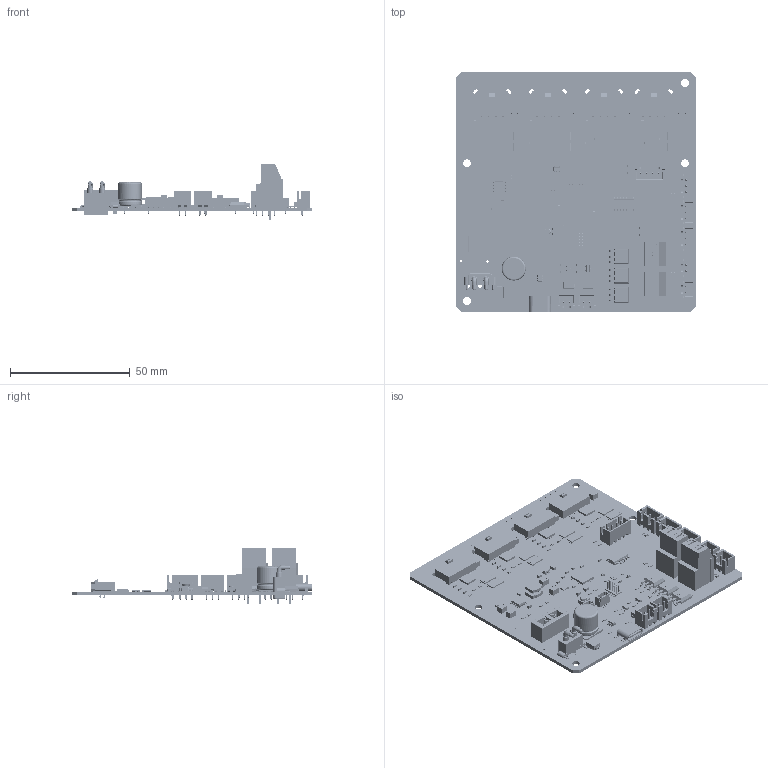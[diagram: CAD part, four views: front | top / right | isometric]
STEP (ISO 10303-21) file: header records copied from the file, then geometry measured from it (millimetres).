
FILE_DESCRIPTION(('KiCad electronic assembly'),'2;1');
FILE_NAME('a1-printcore-populated-pads.step','2026-11-21T11:14:58',( 'Pcbnew'),('Kicad'),'Open CASCADE STEP processor 7.6', 'KiCad to STEP converter','Unknown');
FILE_SCHEMA(('AUTOMOTIVE_DESIGN { 1 0 10303 214 1 1 1 1 }'));
Length unit declared in the file: millimetre
Products named in the file (88): a1-printcore-populated-pads 1; R_0603_1608Metric; CP_Elec_10x10.5; CP_Elec_10x105; LED_0603_1608Metric; C_0603_1608Metric; SOT-23-5; C_0805_2012Metric; SOIC-14_3.9x8.7mm_P1.27mm; JST_XH_B3B-XH-A_1x03_P2.50mm_Vertical; JST_B3B_XH_A; R_2512_6332Metric; JST_SH_BM04B-SRSS-TB_1x04-1MP_P1.00mm_Vertical; C_1210_3225Metric; QFN-48-1EP_7x7mm_P0.5mm_EP5.6x5.6mm; QFN_48_1EP_7x7mm_P05mm_EP56x56mm; XT30PW-M-media; XT30PW-M; A4988SETTR-T_ET_drawing-checked; Open CASCADE STEP translator 8.0 1; D_SMA; JST_XH_B2B-XH-A_1x02_P2.50mm_Vertical; JST_B2B_XH_A; SOT-23-6; SOT-23; Molex_Micro-Fit_3.0_43650-0410_1x04-1MP_P3.00mm_Horizontal; 436500410wbm000_02; JST_XH_B4B-XH-A_1x04_P2.50mm_Vertical; JST_B4B_XH_A; TO-252-3_TabPin2; CQ assembly; 98f8d7e0-9c39-11ed-93f0-dde97e994e83; 98f8d7e1-9c39-11ed-93f0-dde97e994e83; 98f8d7e1-9c39-11ed-93f0-dde97e994e83_part; 98f8d7e2-9c39-11ed-93f0-dde97e994e83; 98f8d7e2-9c39-11ed-93f0-dde97e994e83_part; 98f8d7e3-9c39-11ed-93f0-dde97e994e83; 98f8d7e3-9c39-11ed-93f0-dde97e994e83_part; TerminalBlock_Phoenix_MKDS-3-2-5.08_1x02_P5.08mm_Horizontal; L_Bourns_SRN6045TA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
Assembly tree (202 placements, depth 6):
  a1-printcore-populated-pads 1
    R_0603_1608Metric  x44
      R_0603_1608Metric
    CP_Elec_10x10.5
      CP_Elec_10x105
    LED_0603_1608Metric  x2
      LED_0603_1608Metric
    C_0603_1608Metric  x32
      C_0603_1608Metric
    SOT-23-5
      SOT-23-5
    C_0805_2012Metric  x9
      C_0805_2012Metric
    SOIC-14_3.9x8.7mm_P1.27mm
      SOIC-14_3.9x8.7mm_P1.27mm
    JST_XH_B3B-XH-A_1x03_P2.50mm_Vertical  x3
      JST_B3B_XH_A
    R_2512_6332Metric  x8
      R_2512_6332Metric
    JST_SH_BM04B-SRSS-TB_1x04-1MP_P1.00mm_Vertical  x2
      JST_SH_BM04B-SRSS-TB_1x04-1MP_P1.00mm_Vertical
    C_1210_3225Metric  x9
      C_1210_3225Metric
    QFN-48-1EP_7x7mm_P0.5mm_EP5.6x5.6mm
      QFN_48_1EP_7x7mm_P05mm_EP56x56mm
    XT30PW-M-media
      XT30PW-M
    A4988SETTR-T_ET_drawing-checked  x4
      Open CASCADE STEP translator 8.0 1
    D_SMA  x2
      D_SMA
    JST_XH_B2B-XH-A_1x02_P2.50mm_Vertical  x4
      JST_B2B_XH_A
    SOT-23-6
      SOT-23-6
    SOT-23  x2
      SOT-23
    Molex_Micro-Fit_3.0_43650-0410_1x04-1MP_P3.00mm_Horizontal  x4
      436500410wbm000_02
    JST_XH_B4B-XH-A_1x04_P2.50mm_Vertical
      JST_B4B_XH_A
    TO-252-3_TabPin2  x3
      CQ assembly
        98f8d7e0-9c39-11ed-93f0-dde97e994e83
          98f8d7e1-9c39-11ed-93f0-dde97e994e83
            98f8d7e1-9c39-11ed-93f0-dde97e994e83_part
          98f8d7e2-9c39-11ed-93f0-dde97e994e83
            98f8d7e2-9c39-11ed-93f0-dde97e994e83_part
          98f8d7e3-9c39-11ed-93f0-dde97e994e83
            98f8d7e3-9c39-11ed-93f0-dde97e994e83_part
    TerminalBlock_Phoenix_MKDS-3-2-5.08_1x02_P5.08mm_Horizontal  x2
      TerminalBlock_Phoenix_MKDS-3-2-5.08_1x02_P5.08mm_Horizontal
    L_Bourns_SRN6045TA
      L_Bourns_SRN6045TA
    PinHeader_2x05_P1.27mm_Vertical_SMD
      PinHeader_2x05_P127mm_Vertical_SMD
    LMR36520ADDAR_DDA0008B_drawing-checked
      SOIC-8-1EP_3.9x4.9mm_P1.27mm_EP2.29x3mm
    D_SMB
      D_SMB
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Bounding box: 100 x 100 x 23 mm (x, y, z)
Volume: 24408.5 mm3; surface area: 40827.5 mm2
Topology: 825 solids, 825 shells, 14697 faces, 36838 edges, 24059 vertices
Faces by surface type: plane 10404, cylinder 4059, bspline 190, cone 28, torus 11, sphere 4, revolution 1
Full cylindrical faces by diameter (mm): 0.25 x2, 0.4 x1, 0.49 x2, 0.5 x4, 0.65 x2, 0.9 x39, 0.95 x56, 1 x23, 1.25 x12, 1.3 x8, 1.4 x4, 1.5 x8, 1.73 x12, 1.78 x8, 1.85 x6, 1.9 x4, 2.36 x24, 2.41 x16, 2.6 x4, 2.71 x16, 2.78 x8, 3.2 x4, 3.5 x2, 3.8 x4, 4 x4, 10 x2
Entity records: 296628 total; most frequent: CARTESIAN_POINT 49012, DIRECTION 46711, ORIENTED_EDGE 45144, EDGE_CURVE 22570, LINE 16528, VECTOR 16528, AXIS2_PLACEMENT_3D 15091, VERTEX_POINT 14800
